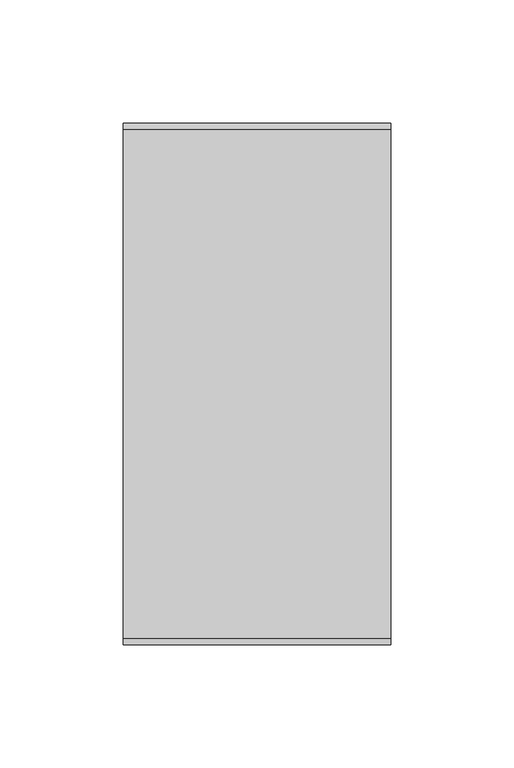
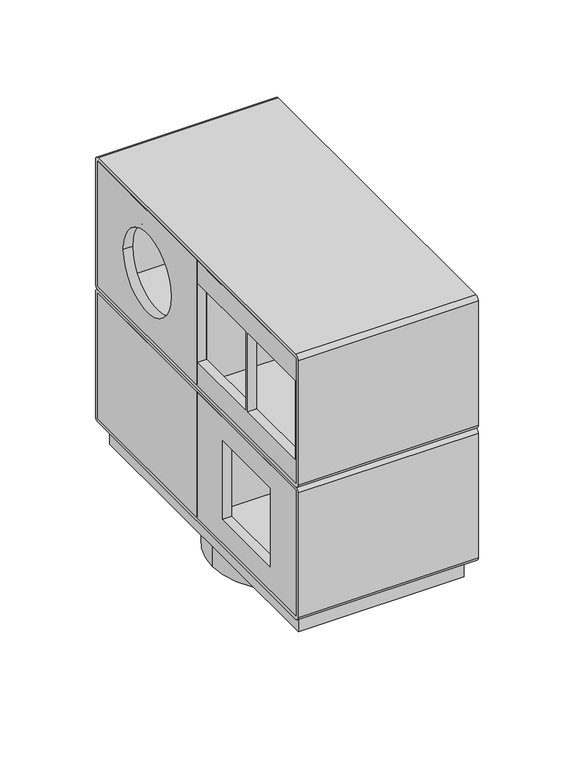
"""IFC4 building model written with IfcOpenShell, lengths in millimetres: proxy geometry, Electrical_Installation_Hager_VE-EE_Pedestal-box-8 : GB pedestal box 8 inst. fields deep black."""

from ifc_helpers import new_model, si_unit, point, frame, frame_2d, origin, origin_with_axes, origin_2d, place, context, project, spatial, polyline, circle_curve, trimmed, segment, composite_curve, outline, extrude, source, transform, mapped, element, save


def electrical_fixtures_7c6a3819(model_context):
    return source(origin(), model_context, "Body", "SweptSolid", [
        extrude(outline(polyline([(1.25, -0.764292), (1.25, 0.764292), (48.9, 0.764292), (48.9, -0.764292), (1.25, -0.764292)])), frame((0.0, 0.0, 99.3), z_axis=(0.0, 0.0, 1.0), x_axis=(1.0, 0.0, 0.0)), (0.0, 0.0, 1.0), 79.9),
        extrude(outline(polyline([(-1.25, 0.764292), (-1.25, -0.764292), (-48.9, -0.764292), (-48.9, 0.764292), (-1.25, 0.764292)])), frame((0.0, 0.0, 99.3), z_axis=(0.0, 0.0, 1.0), x_axis=(1.0, 0.0, 0.0)), (0.0, 0.0, 1.0), 79.9),
        extrude(outline(polyline([(0.0, 179.2), (103.7, 179.2), (103.7, 99.3), (0.0, 99.3), (0.0, 179.2)]), holes=[composite_curve([segment(trimmed(circle_curve(frame_2d((51.85, 139.25)), 25.0), [point((76.85, 139.25))], [point((26.85, 139.25))], True, "CARTESIAN"), True, "CONTINUOUS"), segment(trimmed(circle_curve(frame_2d((51.85, 139.25)), 25.0), [point((26.85, 139.25))], [point((76.85, 139.25))], True, "CARTESIAN"), True, "CONTINUOUS")], self_intersect=False)]), frame((-54.4, 0.0, 0.0), z_axis=(1.0, 0.0, 0.0), x_axis=(0.0, 1.0, 0.0)), (0.0, 0.0, 1.0), 5.5),
        extrude(outline(polyline([(0.0, 179.2), (0.0, 99.3), (-103.7, 99.3), (-103.7, 179.2), (0.0, 179.2)]), holes=[polyline([(-52.935708, 164.25), (-102.935708, 164.25), (-102.935708, 114.25), (-52.935708, 114.25), (-52.935708, 164.25)]), polyline([(-50.764292, 164.25), (-50.764292, 114.25), (-0.764292, 114.25), (-0.764292, 164.25), (-50.764292, 164.25)])]), frame((-54.4, 0.0, 0.0), z_axis=(1.0, 0.0, 0.0), x_axis=(0.0, 1.0, 0.0)), (0.0, 0.0, 1.0), 5.5),
        extrude(outline(polyline([(0.0, 179.2), (103.7, 179.2), (103.7, 99.3), (0.0, 99.3), (0.0, 179.2)]), holes=[composite_curve([segment(trimmed(circle_curve(frame_2d((51.85, 139.25)), 25.0), [point((76.85, 139.25))], [point((26.85, 139.25))], True, "CARTESIAN"), True, "CONTINUOUS"), segment(trimmed(circle_curve(frame_2d((51.85, 139.25)), 25.0), [point((26.85, 139.25))], [point((76.85, 139.25))], True, "CARTESIAN"), True, "CONTINUOUS")], self_intersect=False)]), frame((48.9, 0.0, 0.0), z_axis=(1.0, 0.0, 0.0), x_axis=(0.0, 1.0, 0.0)), (0.0, 0.0, 1.0), 5.5),
        extrude(outline(composite_curve([segment(polyline([(-103.5, 181.5), (103.5, 181.5)]), True, "CONTINUOUS"), segment(trimmed(circle_curve(frame_2d((103.5, 179.0)), 2.5), [point((103.5, 181.5))], [point((106.0, 179.0))], False, "CARTESIAN"), True, "CONTINUOUS"), segment(polyline([(106.0, 179.0), (106.0, 99.5)]), True, "CONTINUOUS"), segment(trimmed(circle_curve(frame_2d((103.5, 99.5)), 2.5), [point((106.0, 99.5))], [point((103.5, 97.0))], False, "CARTESIAN"), True, "CONTINUOUS"), segment(polyline([(103.5, 97.0), (-103.5, 97.0)]), True, "CONTINUOUS"), segment(trimmed(circle_curve(frame_2d((-103.5, 99.5)), 2.5), [point((-103.5, 97.0))], [point((-106.0, 99.5))], False, "CARTESIAN"), True, "CONTINUOUS"), segment(polyline([(-106.0, 99.5), (-106.0, 179.0)]), True, "CONTINUOUS"), segment(trimmed(circle_curve(frame_2d((-103.5, 179.0)), 2.5), [point((-106.0, 179.0))], [point((-103.5, 181.5))], False, "CARTESIAN"), True, "CONTINUOUS")], self_intersect=False), holes=[polyline([(-103.7, 179.2), (-103.7, 99.3), (103.7, 99.3), (103.7, 179.2), (-103.7, 179.2)])]), frame((-54.4, 0.0, 0.0), z_axis=(1.0, 0.0, 0.0), x_axis=(0.0, 1.0, 0.0)), (0.0, 0.0, 1.0), 108.8),
        extrude(outline(polyline([(0.0, 179.2), (0.0, 99.3), (-103.7, 99.3), (-103.7, 179.2), (0.0, 179.2)]), holes=[polyline([(-76.85, 164.25), (-76.85, 114.25), (-26.85, 114.25), (-26.85, 164.25), (-76.85, 164.25)])]), frame((48.9, 0.0, 0.0), z_axis=(1.0, 0.0, 0.0), x_axis=(0.0, 1.0, 0.0)), (0.0, 0.0, 1.0), 5.5),
        extrude(outline(polyline([(1.25, 103.7), (1.25, -103.7), (-1.25, -103.7), (-1.25, 103.7), (1.25, 103.7)])), frame((0.0, 0.0, 99.3), z_axis=(0.0, 0.0, 1.0), x_axis=(1.0, 0.0, 0.0)), (0.0, 0.0, 1.0), 79.9),
        extrude(outline(polyline([(1.25, -0.764292), (1.25, 0.764292), (48.9, 0.764292), (48.9, -0.764292), (1.25, -0.764292)])), frame((0.0, 0.0, 14.8), z_axis=(0.0, 0.0, 1.0), x_axis=(1.0, 0.0, 0.0)), (0.0, 0.0, 1.0), 79.9),
        extrude(outline(polyline([(-1.25, 0.764292), (-1.25, -0.764292), (-48.9, -0.764292), (-48.9, 0.764292), (-1.25, 0.764292)])), frame((0.0, 0.0, 14.8), z_axis=(0.0, 0.0, 1.0), x_axis=(1.0, 0.0, 0.0)), (0.0, 0.0, 1.0), 79.9),
        extrude(outline(polyline([(-54.4, 0.0), (-54.4, 103.7), (-48.9, 103.7), (-48.9, 0.0), (-54.4, 0.0)])), frame((0.0, 0.0, 14.8), z_axis=(0.0, 0.0, 1.0), x_axis=(1.0, 0.0, 0.0)), (0.0, 0.0, 1.0), 79.9),
        extrude(outline(polyline([(0.0, 94.7), (0.0, 14.8), (-103.7, 14.8), (-103.7, 94.7), (0.0, 94.7)]), holes=[polyline([(-76.85, 79.75), (-76.85, 29.75), (-26.85, 29.75), (-26.85, 79.75), (-76.85, 79.75)])]), frame((-54.4, 0.0, 0.0), z_axis=(1.0, 0.0, 0.0), x_axis=(0.0, 1.0, 0.0)), (0.0, 0.0, 1.0), 5.5),
        extrude(outline(polyline([(0.0, 94.7), (103.7, 94.7), (103.7, 14.8), (0.0, 14.8), (0.0, 94.7)]), holes=[polyline([(76.85, 79.75), (26.85, 79.75), (26.85, 29.75), (76.85, 29.75), (76.85, 79.75)])]), frame((48.9, 0.0, 0.0), z_axis=(1.0, 0.0, 0.0), x_axis=(0.0, 1.0, 0.0)), (0.0, 0.0, 1.0), 5.5),
        extrude(outline(composite_curve([segment(polyline([(-103.5, 97.0), (103.5, 97.0)]), True, "CONTINUOUS"), segment(trimmed(circle_curve(frame_2d((103.5, 94.5)), 2.5), [point((103.5, 97.0))], [point((106.0, 94.5))], False, "CARTESIAN"), True, "CONTINUOUS"), segment(polyline([(106.0, 94.5), (106.0, 15.0)]), True, "CONTINUOUS"), segment(trimmed(circle_curve(frame_2d((103.5, 15.0)), 2.5), [point((106.0, 15.0))], [point((103.5, 12.5))], False, "CARTESIAN"), True, "CONTINUOUS"), segment(polyline([(103.5, 12.5), (-103.5, 12.5)]), True, "CONTINUOUS"), segment(trimmed(circle_curve(frame_2d((-103.5, 15.0)), 2.5), [point((-103.5, 12.5))], [point((-106.0, 15.0))], False, "CARTESIAN"), True, "CONTINUOUS"), segment(polyline([(-106.0, 15.0), (-106.0, 94.5)]), True, "CONTINUOUS"), segment(trimmed(circle_curve(frame_2d((-103.5, 94.5)), 2.5), [point((-106.0, 94.5))], [point((-103.5, 97.0))], False, "CARTESIAN"), True, "CONTINUOUS")], self_intersect=False), holes=[polyline([(-103.7, 94.7), (-103.7, 14.8), (103.7, 14.8), (103.7, 94.7), (-103.7, 94.7)])]), frame((-54.4, 0.0, 0.0), z_axis=(1.0, 0.0, 0.0), x_axis=(0.0, 1.0, 0.0)), (0.0, 0.0, 1.0), 108.8),
        extrude(outline(polyline([(0.0, 94.7), (0.0, 14.8), (-103.7, 14.8), (-103.7, 94.7), (0.0, 94.7)]), holes=[polyline([(-52.935708, 79.75), (-102.935708, 79.75), (-102.935708, 29.75), (-52.935708, 29.75), (-52.935708, 79.75)]), polyline([(-50.764292, 79.75), (-50.764292, 29.75), (-0.764292, 29.75), (-0.764292, 79.75), (-50.764292, 79.75)])]), frame((48.9, 0.0, 0.0), z_axis=(1.0, 0.0, 0.0), x_axis=(0.0, 1.0, 0.0)), (0.0, 0.0, 1.0), 5.5),
        extrude(outline(composite_curve([segment(trimmed(circle_curve(origin_2d(), 45.0), [point((-45.0, 0.0))], [point((45.0, 0.0))], False, "CARTESIAN"), True, "CONTINUOUS"), segment(trimmed(circle_curve(origin_2d(), 45.0), [point((45.0, 0.0))], [point((-45.0, 0.0))], False, "CARTESIAN"), True, "CONTINUOUS")], self_intersect=False), holes=[composite_curve([segment(trimmed(circle_curve(origin_2d(), 27.5), [point((-27.5, 0.0))], [point((27.5, 0.0))], True, "CARTESIAN"), True, "CONTINUOUS"), segment(trimmed(circle_curve(origin_2d(), 27.5), [point((27.5, 0.0))], [point((-27.5, 0.0))], True, "CARTESIAN"), True, "CONTINUOUS")], self_intersect=False)]), frame((0.0, 0.0, -20.0), z_axis=(0.0, 0.0, 1.0), x_axis=(1.0, 0.0, 0.0)), (0.0, 0.0, 1.0), 20.0),
        extrude(outline(polyline([(1.25, 103.7), (1.25, -103.7), (-1.25, -103.7), (-1.25, 103.7), (1.25, 103.7)])), frame((0.0, 0.0, 14.8), z_axis=(0.0, 0.0, 1.0), x_axis=(1.0, 0.0, 0.0)), (0.0, 0.0, 1.0), 79.9),
        extrude(outline(polyline([(50.0, -98.7), (-50.0, -98.7), (-50.0, 98.7), (50.0, 98.7), (50.0, -98.7)]), holes=[composite_curve([segment(trimmed(circle_curve(frame_2d((-28.5912964, 0.7333267)), 5.0), [point((-24.4955362, 3.6012089))], [point((-25.7234143, -3.3624335))], False, "CARTESIAN"), True, "CONTINUOUS"), segment(polyline([(-25.7234143, -3.3624335), (-34.1678222, -9.2752716)]), True, "CONTINUOUS"), segment(trimmed(circle_curve(frame_2d((-31.29994, -13.3710318)), 5.0), [point((-34.1678222, -9.2752716))], [point((-35.8979613, -15.335262))], True, "CARTESIAN"), True, "CONTINUOUS"), segment(trimmed(circle_curve(origin_2d(), 39.0363149), [point((-35.8979613, -15.335262))], [point((-26.6882584, -28.4880808))], True, "CARTESIAN"), True, "CONTINUOUS"), segment(trimmed(circle_curve(frame_2d((-23.2698699, -24.8391604)), 5.0), [point((-26.6882584, -28.4880808))], [point((-20.4019877, -28.9349206))], True, "CARTESIAN"), True, "CONTINUOUS"), segment(polyline([(-20.4019877, -28.9349206), (-11.9575798, -23.0220826)]), True, "CONTINUOUS"), segment(trimmed(circle_curve(frame_2d((-9.0896976, -27.1178428)), 5.0), [point((-11.9575798, -23.0220826))], [point((-4.9939374, -24.2499606))], False, "CARTESIAN"), True, "CONTINUOUS"), segment(polyline([(-4.9939374, -24.2499606), (3.2975997, -36.0915028)]), True, "CONTINUOUS"), segment(trimmed(circle_curve(frame_2d((7.3933599, -33.2236206)), 5.0), [point((3.2975997, -36.0915028))], [point((8.4794587, -38.1042342))], True, "CARTESIAN"), True, "CONTINUOUS"), segment(trimmed(circle_curve(origin_2d(), 39.0363149), [point((8.4794587, -38.1042342))], [point((32.906122, -21.0005004))], True, "CARTESIAN"), True, "CONTINUOUS"), segment(trimmed(circle_curve(frame_2d((28.6913131, -18.3106332)), 5.0), [point((32.906122, -21.0005004))], [point((32.7870733, -15.442751))], True, "CARTESIAN"), True, "CONTINUOUS"), segment(polyline([(32.7870733, -15.442751), (24.4955362, -3.6012089)]), True, "CONTINUOUS"), segment(trimmed(circle_curve(frame_2d((28.5912964, -0.7333267)), 5.0), [point((24.4955362, -3.6012089))], [point((25.7234143, 3.3624335))], False, "CARTESIAN"), True, "CONTINUOUS"), segment(polyline([(25.7234143, 3.3624335), (34.1678222, 9.2752716)]), True, "CONTINUOUS"), segment(trimmed(circle_curve(frame_2d((31.29994, 13.3710318)), 5.0), [point((34.1678222, 9.2752716))], [point((35.8979613, 15.335262))], True, "CARTESIAN"), True, "CONTINUOUS"), segment(trimmed(circle_curve(origin_2d(), 39.0363149), [point((35.8979613, 15.335262))], [point((26.6882584, 28.4880808))], True, "CARTESIAN"), True, "CONTINUOUS"), segment(trimmed(circle_curve(frame_2d((23.2698699, 24.8391604)), 5.0), [point((26.6882584, 28.4880808))], [point((20.4019877, 28.9349206))], True, "CARTESIAN"), True, "CONTINUOUS"), segment(polyline([(20.4019877, 28.9349206), (11.9575798, 23.0220826)]), True, "CONTINUOUS"), segment(trimmed(circle_curve(frame_2d((9.0896976, 27.1178428)), 5.0), [point((11.9575798, 23.0220826))], [point((4.9939374, 24.2499606))], False, "CARTESIAN"), True, "CONTINUOUS"), segment(polyline([(4.9939374, 24.2499606), (-3.2975997, 36.0915028)]), True, "CONTINUOUS"), segment(trimmed(circle_curve(frame_2d((-7.3933599, 33.2236206)), 5.0), [point((-3.2975997, 36.0915028))], [point((-8.4794587, 38.1042342))], True, "CARTESIAN"), True, "CONTINUOUS"), segment(trimmed(circle_curve(origin_2d(), 39.0363149), [point((-8.4794587, 38.1042342))], [point((-32.906122, 21.0005004))], True, "CARTESIAN"), True, "CONTINUOUS"), segment(trimmed(circle_curve(frame_2d((-28.6913131, 18.3106332)), 5.0), [point((-32.906122, 21.0005004))], [point((-32.7870733, 15.442751))], True, "CARTESIAN"), True, "CONTINUOUS"), segment(polyline([(-32.7870733, 15.442751), (-24.4955362, 3.6012089)]), True, "CONTINUOUS")], self_intersect=False)]), origin_with_axes(), (0.0, 0.0, 1.0), 12.5),
    ])


if __name__ == "__main__":
    model = new_model("IFC4")
    model_context = context("Model", 3, world=origin())
    ifc_project = project(units=[si_unit("LENGTHUNIT", "METRE", prefix="MILLI")], contexts=[model_context])
    site = spatial("IfcSite", under=ifc_project)
    building = spatial("IfcBuilding", under=site)
    placement = place(None, origin())
    electrical_fixtures_shape = electrical_fixtures_7c6a3819(model_context)
    element("IfcBuildingElementProxy", 1, Name="Electrical_Installation_Hager_VE-EE_Pedestal-box-8 : GB pedestal box 8 inst. fields deep black", ObjectType="Electrical_Installation_Hager_VE-EE_Pedestal-box-8 : GB pedestal box 8 inst. fields deep black", at=placement, inside=building, context=model_context, shape_type="MappedRepresentation", body=[
        mapped(electrical_fixtures_shape, transform((0.0, 0.0, 0.0), x_axis=(1.0, 0.0, 0.0), y_axis=(0.0, 1.0, 0.0), z_axis=(0.0, 0.0, 1.0))),
    ])
    save(model, "model.ifc")
